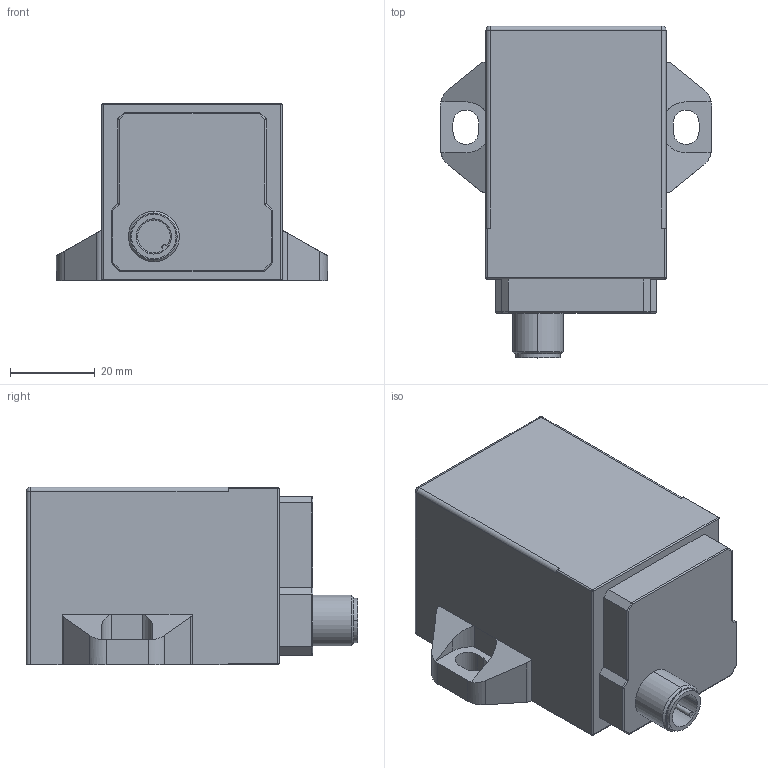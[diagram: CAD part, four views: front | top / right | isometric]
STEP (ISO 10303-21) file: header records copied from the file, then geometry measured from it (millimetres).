
FILE_DESCRIPTION (( 'STEP AP203' ), '1' );
FILE_NAME ('TNSLR-Q42-H1.step', '2013-05-07T15:04:03', ( 'Turck User' ), ( '' ), 'SwSTEP 2.0', 'SolidWorks 2012', '' );
FILE_SCHEMA (( 'CONFIG_CONTROL_DESIGN' ));
Length unit declared in the file: millimetre
Products named in the file (1): TNSLR-Q42-H1
Bounding box: 64 x 78.3 x 42 mm (x, y, z)
Volume: 120983.2 mm3; surface area: 17886.6 mm2
Topology: 1 solids, 7 shells, 217 faces, 516 edges, 316 vertices
Faces by surface type: cylinder 97, plane 91, cone 16, torus 7, sphere 6
Entity records: 6270 total; most frequent: CARTESIAN_POINT 1126, DIRECTION 1119, ORIENTED_EDGE 1020, EDGE_CURVE 510, AXIS2_PLACEMENT_3D 417, VERTEX_POINT 316, VECTOR 285, LINE 285
